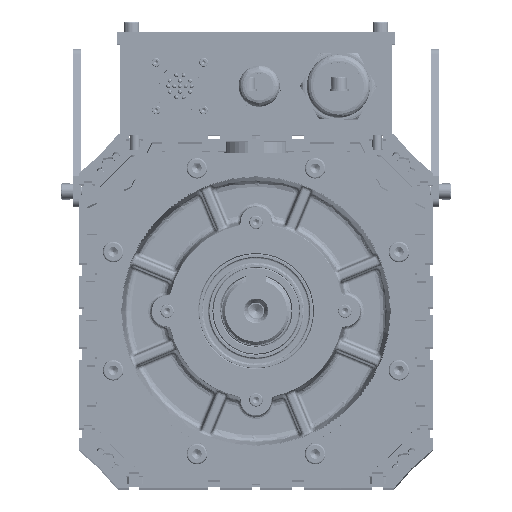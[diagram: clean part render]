
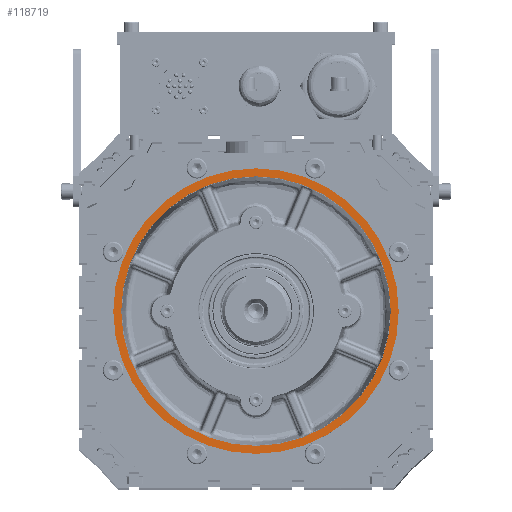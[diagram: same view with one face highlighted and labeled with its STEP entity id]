
A CAD part, top view. The second image highlights one B-rep face of the part: STEP entity #118719.
In plain terms, the highlighted planar face has unit normal (0, 0, 1) as drawn and (0, 0, -1) by its records, which use the part's own axes.
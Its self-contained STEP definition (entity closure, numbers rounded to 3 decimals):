
#6564 = VERTEX_POINT ( 'NONE', #155618 ) ;
#7096 = EDGE_CURVE ( 'NONE', #134310, #21730, #22196, .T. ) ;
#10456 = PLANE ( 'NONE',  #101169 ) ;
#14332 = CARTESIAN_POINT ( 'NONE',  ( -28.364, -25.305, 205. ) ) ;
#16056 = DIRECTION ( 'NONE',  ( 0., 0., 1. ) ) ;
#21730 = VERTEX_POINT ( 'NONE', #96552 ) ;
#22196 = CIRCLE ( 'NONE', #125052, 85. ) ;
#26246 = CARTESIAN_POINT ( 'NONE',  ( 61.636, -25.305, 205. ) ) ;
#26840 = ORIENTED_EDGE ( 'NONE', *, *, #169916, .F. ) ;
#30460 = ORIENTED_EDGE ( 'NONE', *, *, #144489, .F. ) ;
#31321 = CARTESIAN_POINT ( 'NONE',  ( -28.364, -25.305, 205. ) ) ;
#32737 = EDGE_LOOP ( 'NONE', ( #138693, #106144 ) ) ;
#42534 = FACE_BOUND ( 'NONE', #32737, .T. ) ;
#43047 = DIRECTION ( 'NONE',  ( 0., 0., 1. ) ) ;
#45384 = EDGE_CURVE ( 'NONE', #21730, #134310, #98593, .T. ) ;
#54376 = VERTEX_POINT ( 'NONE', #26246 ) ;
#76226 = DIRECTION ( 'NONE',  ( 0., 0., -1. ) ) ;
#76950 = EDGE_LOOP ( 'NONE', ( #30460, #26840 ) ) ;
#77929 = CARTESIAN_POINT ( 'NONE',  ( -113.364, -25.305, 205. ) ) ;
#78133 = CARTESIAN_POINT ( 'NONE',  ( -28.364, -25.305, 205. ) ) ;
#79587 = CARTESIAN_POINT ( 'NONE',  ( -28.364, -25.305, 205. ) ) ;
#86854 = DIRECTION ( 'NONE',  ( 1., 0., 0. ) ) ;
#94218 = DIRECTION ( 'NONE',  ( -1., 0., 0. ) ) ;
#96552 = CARTESIAN_POINT ( 'NONE',  ( 56.636, -25.305, 205. ) ) ;
#98593 = CIRCLE ( 'NONE', #128358, 85. ) ;
#101169 = AXIS2_PLACEMENT_3D ( 'NONE', #130738, #43047, #86854 ) ;
#106144 = ORIENTED_EDGE ( 'NONE', *, *, #45384, .F. ) ;
#108428 = CIRCLE ( 'NONE', #157392, 90. ) ;
#118719 = ADVANCED_FACE ( 'NONE', ( #183513, #42534 ), #10456, .F. ) ;
#125052 = AXIS2_PLACEMENT_3D ( 'NONE', #78133, #76226, #178064 ) ;
#128358 = AXIS2_PLACEMENT_3D ( 'NONE', #79587, #181340, #94218 ) ;
#130738 = CARTESIAN_POINT ( 'NONE',  ( -28.364, -115.305, 205. ) ) ;
#132590 = DIRECTION ( 'NONE',  ( -1., 0., 0. ) ) ;
#133046 = DIRECTION ( 'NONE',  ( -1., 0., 0. ) ) ;
#134310 = VERTEX_POINT ( 'NONE', #77929 ) ;
#138693 = ORIENTED_EDGE ( 'NONE', *, *, #7096, .F. ) ;
#139275 = CIRCLE ( 'NONE', #175707, 90. ) ;
#144489 = EDGE_CURVE ( 'NONE', #6564, #54376, #108428, .T. ) ;
#155618 = CARTESIAN_POINT ( 'NONE',  ( -118.364, -25.305, 205. ) ) ;
#157392 = AXIS2_PLACEMENT_3D ( 'NONE', #14332, #159886, #132590 ) ;
#159886 = DIRECTION ( 'NONE',  ( 0., 0., 1. ) ) ;
#169916 = EDGE_CURVE ( 'NONE', #54376, #6564, #139275, .T. ) ;
#175707 = AXIS2_PLACEMENT_3D ( 'NONE', #31321, #16056, #133046 ) ;
#178064 = DIRECTION ( 'NONE',  ( -1., 0., 0. ) ) ;
#181340 = DIRECTION ( 'NONE',  ( 0., 0., -1. ) ) ;
#183513 = FACE_OUTER_BOUND ( 'NONE', #76950, .T. ) ;
